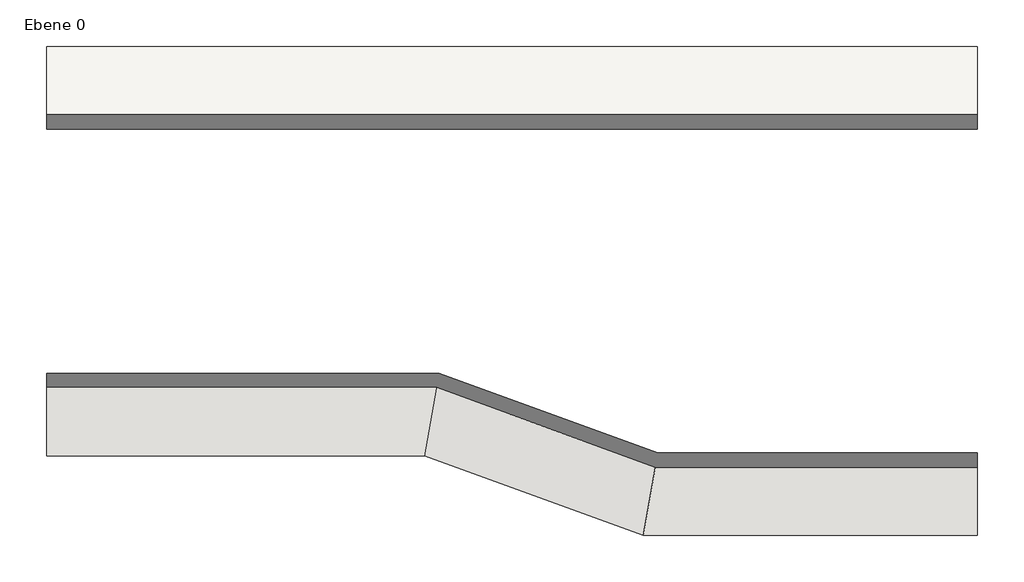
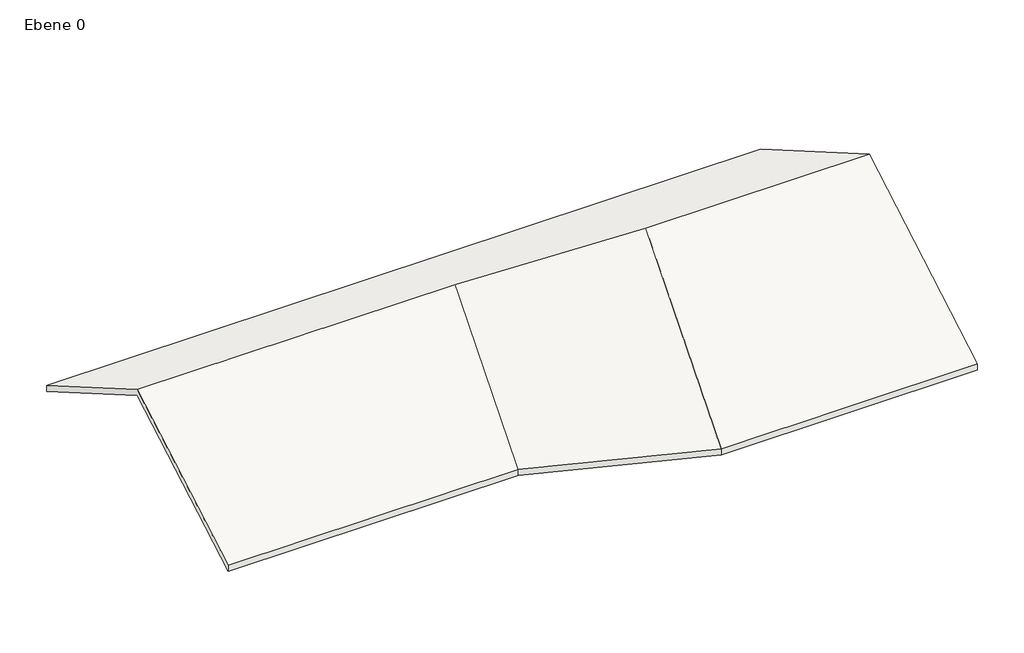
# One storey: 1 roof.
"""IFC4 building model written with IfcOpenShell, lengths in millimetres."""

from ifc_helpers import new_model, si_unit, origin, place, context, project, spatial, faceted_brep, element, save

model = new_model("IFC4")

# Units and contexts
model_context = context("Model", 3, world=origin())
ifc_project = project(units=[si_unit("LENGTHUNIT", "METRE", prefix="MILLI")], contexts=[model_context])

# Site, building, storey
site = spatial("IfcSite", under=ifc_project)
building = spatial("IfcBuilding", under=site)
storey = spatial("IfcBuildingStorey", under=building, Name="Ebene 0", Elevation=0.0)

# Roof
placement = place(None, origin())
element("IfcRoof", 1, ObjectType="Titanzink - Eindeckung", at=placement, inside=storey, context=model_context, shape_type="Brep", body=[
    faceted_brep([(12275.2981567, -9051.3451699, 0.0), (3875.2981567, -9051.3451699, 0.0), (4959.709088, -2901.3451699, 3550.7041555), (12275.2981567, -2901.3451699, 3550.7041555), (-1619.6566823, -7051.3451699, 0.0), (-711.5727316, -1901.3451699, 2973.3538863), (-11124.7018433, -7051.3451699, 0.0), (-11124.7018433, -1901.3451699, 2973.3538863), (-11124.7018433, 3248.6548301, 0.0), (12275.2981567, 3248.6548301, 0.0), (3875.2981567, -9051.3451699, 207.8460969), (12275.2981567, -9051.3451699, 207.8460969), (12275.2981567, -2901.3451699, 3758.5502524), (4959.709088, -2901.3451699, 3758.5502524), (-1619.6566823, -7051.3451699, 207.8460969), (-711.5727316, -1901.3451699, 3181.1999832), (-11124.7018433, -7051.3451699, 207.8460969), (-11124.7018433, -1901.3451699, 3181.1999832), (-11124.7018433, 3248.6548301, 207.8460969), (12275.2981567, 3248.6548301, 207.8460969)], [[[0, 1, 2, 3]], [[1, 4, 5, 2]], [[4, 6, 7, 5]], [[8, 9, 3, 2, 5, 7]], [[10, 11, 12, 13]], [[14, 10, 13, 15]], [[16, 14, 15, 17]], [[18, 17, 15, 13, 12, 19]], [[4, 14, 16, 6]], [[1, 10, 14, 4]], [[0, 11, 10, 1]], [[8, 18, 19, 9]], [[16, 17, 18, 8, 7, 6]], [[19, 12, 11, 0, 3, 9]]]),
])

save(model, "model.ifc")
